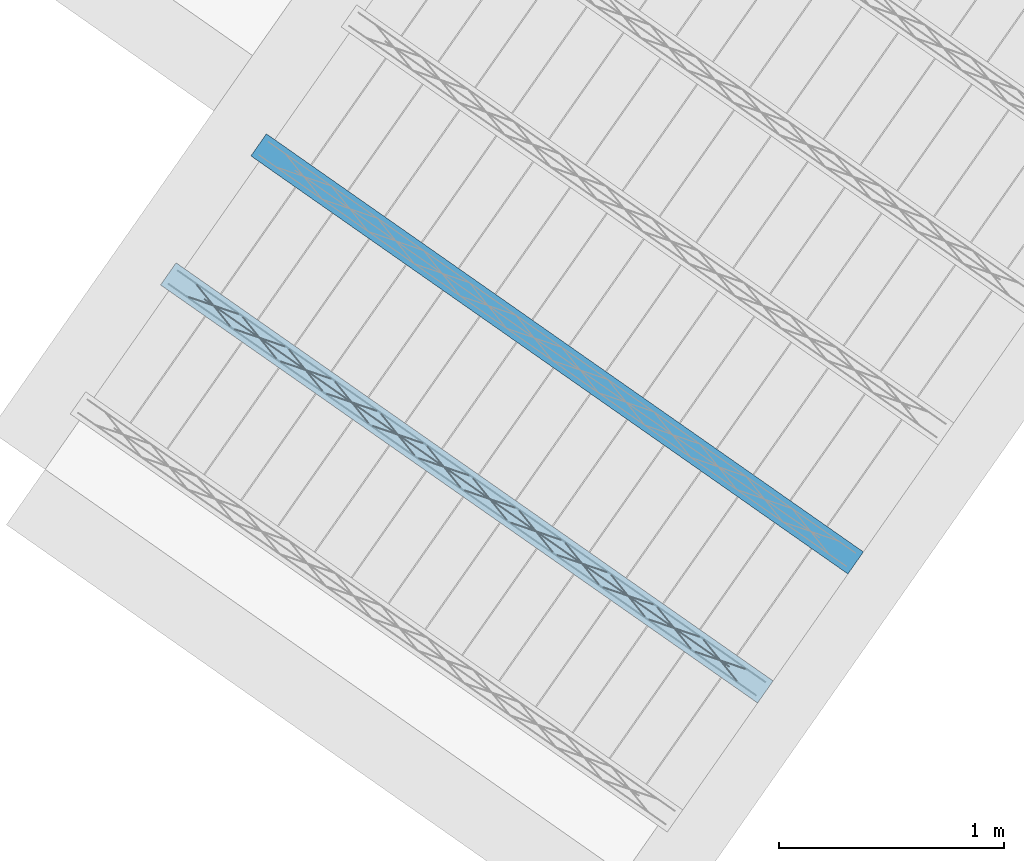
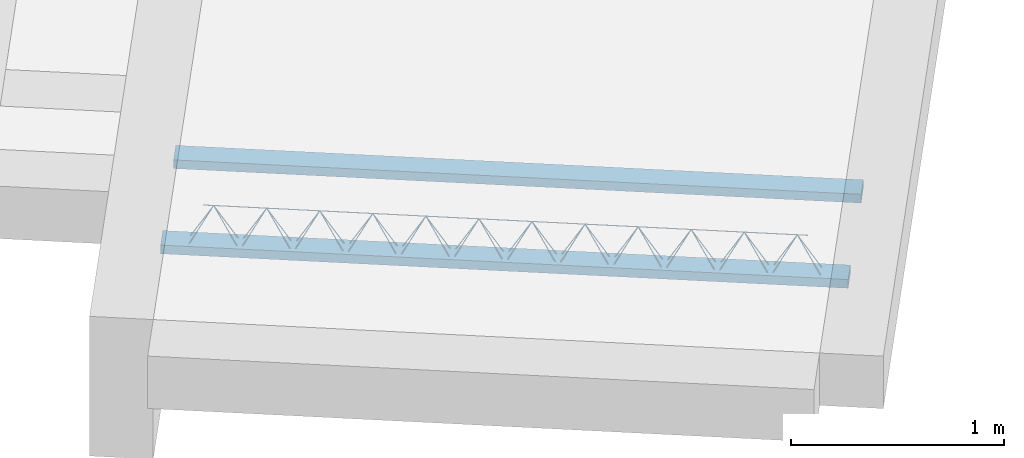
# One storey, part 4 of 46: 2 beams.
"""IFC2X3 building model written with IfcOpenShell, lengths in metres."""

from ifc_helpers import new_model, entity, si_unit, converted_unit, derived_unit, direction, frame, frame_2d, origin, origin_2d_with_axis, place, context, subcontext, project, spatial, rectangle, circle, extrude, material, type_object, element, save


model = new_model("IFC2X3")

# Units and contexts
model_context = context("Model", 3, precision=1e-05, world=origin(), true_north=direction((6.123031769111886e-17, 1.0)))
body_context = subcontext(model_context, "Body", "Model", "MODEL_VIEW")
ifc_project = project(units=[si_unit("LENGTHUNIT", "METRE"), si_unit("AREAUNIT", "SQUARE_METRE"), si_unit("VOLUMEUNIT", "CUBIC_METRE"), converted_unit("PLANEANGLEUNIT", "DEGREE", entity("IfcPlaneAngleMeasure", 0.017453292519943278), si_unit("PLANEANGLEUNIT", "RADIAN"), dimensions=[0, 0, 0, 0, 0, 0, 0]), si_unit("MASSUNIT", "GRAM", prefix="KILO"), derived_unit("MASSDENSITYUNIT", [(si_unit("MASSUNIT", "GRAM", prefix="KILO"), 1), (si_unit("LENGTHUNIT", "METRE"), -3)]), derived_unit("IONCONCENTRATIONUNIT", [(si_unit("MASSUNIT", "GRAM", prefix="KILO"), 1), (si_unit("LENGTHUNIT", "METRE"), -3)]), derived_unit("MOMENTOFINERTIAUNIT", [(si_unit("LENGTHUNIT", "METRE"), 4)]), si_unit("TIMEUNIT", "SECOND"), si_unit("FREQUENCYUNIT", "HERTZ"), si_unit("THERMODYNAMICTEMPERATUREUNIT", "DEGREE_CELSIUS"), derived_unit("THERMALTRANSMITTANCEUNIT", [(si_unit("MASSUNIT", "GRAM", prefix="KILO"), 1), (si_unit("THERMODYNAMICTEMPERATUREUNIT", "KELVIN"), -1), (si_unit("TIMEUNIT", "SECOND"), -3)]), derived_unit("THERMALCONDUCTANCEUNIT", [(si_unit("MASSUNIT", "GRAM", prefix="KILO"), 1), (si_unit("THERMODYNAMICTEMPERATUREUNIT", "KELVIN"), -1), (si_unit("TIMEUNIT", "SECOND"), -3), (si_unit("LENGTHUNIT", "METRE"), 1)]), derived_unit("VOLUMETRICFLOWRATEUNIT", [(si_unit("LENGTHUNIT", "METRE", prefix="DECI"), 3), (si_unit("TIMEUNIT", "SECOND"), -1)]), derived_unit("MASSFLOWRATEUNIT", [(si_unit("MASSUNIT", "GRAM", prefix="KILO"), 1), (si_unit("TIMEUNIT", "SECOND"), -1)]), derived_unit("ROTATIONALFREQUENCYUNIT", [(si_unit("TIMEUNIT", "SECOND"), -1)]), si_unit("ELECTRICCURRENTUNIT", "AMPERE"), si_unit("ELECTRICVOLTAGEUNIT", "VOLT"), si_unit("POWERUNIT", "WATT"), si_unit("FORCEUNIT", "NEWTON", prefix="KILO"), si_unit("ILLUMINANCEUNIT", "LUX"), si_unit("LUMINOUSFLUXUNIT", "LUMEN"), si_unit("LUMINOUSINTENSITYUNIT", "CANDELA"), si_unit("ENERGYUNIT", "JOULE"), derived_unit("USERDEFINED", [(si_unit("MASSUNIT", "GRAM", prefix="KILO"), -1), (si_unit("LENGTHUNIT", "METRE"), -2), (si_unit("TIMEUNIT", "SECOND"), 3), (si_unit("LUMINOUSFLUXUNIT", "LUMEN"), 1)]), derived_unit("USERDEFINED", [(si_unit("MASSUNIT", "GRAM", prefix="KILO"), 1), (si_unit("TIMEUNIT", "SECOND"), -3), (si_unit("LENGTHUNIT", "METRE"), 3), (si_unit("ELECTRICCURRENTUNIT", "AMPERE"), -2)]), derived_unit("SOUNDPOWERUNIT", [(si_unit("MASSUNIT", "GRAM", prefix="KILO"), 1), (si_unit("TIMEUNIT", "SECOND"), -3), (si_unit("LENGTHUNIT", "METRE"), 2)]), derived_unit("SOUNDPRESSUREUNIT", [(si_unit("MASSUNIT", "GRAM", prefix="KILO"), 1), (si_unit("LENGTHUNIT", "METRE"), -1), (si_unit("TIMEUNIT", "SECOND"), -2)]), derived_unit("LINEARVELOCITYUNIT", [(si_unit("LENGTHUNIT", "METRE"), 1), (si_unit("TIMEUNIT", "SECOND"), -1)]), si_unit("PRESSUREUNIT", "PASCAL"), derived_unit("USERDEFINED", [(si_unit("MASSUNIT", "GRAM", prefix="KILO"), 1), (si_unit("LENGTHUNIT", "METRE"), -2), (si_unit("TIMEUNIT", "SECOND"), -2)]), derived_unit("LINEARFORCEUNIT", [(si_unit("MASSUNIT", "GRAM", prefix="KILO"), 1), (si_unit("TIMEUNIT", "SECOND"), -2)]), derived_unit("PLANARFORCEUNIT", [(si_unit("MASSUNIT", "GRAM", prefix="KILO"), 1), (si_unit("LENGTHUNIT", "METRE"), -1), (si_unit("TIMEUNIT", "SECOND"), -2)]), derived_unit("SPECIFICHEATCAPACITYUNIT", [(si_unit("THERMODYNAMICTEMPERATUREUNIT", "KELVIN"), -1), (si_unit("LENGTHUNIT", "METRE"), 2), (si_unit("TIMEUNIT", "SECOND"), -2)]), derived_unit("HEATFLUXDENSITYUNIT", [(si_unit("MASSUNIT", "GRAM", prefix="KILO"), 1), (si_unit("TIMEUNIT", "SECOND"), -3)]), derived_unit("HEATINGVALUEUNIT", [(si_unit("LENGTHUNIT", "METRE"), 2), (si_unit("TIMEUNIT", "SECOND"), -2)]), derived_unit("VAPORPERMEABILITYUNIT", [(si_unit("LENGTHUNIT", "METRE"), -1), (si_unit("TIMEUNIT", "SECOND"), 1)]), derived_unit("DYNAMICVISCOSITYUNIT", [(si_unit("MASSUNIT", "GRAM", prefix="KILO"), 1), (si_unit("TIMEUNIT", "SECOND"), -1), (si_unit("LENGTHUNIT", "METRE"), -1)]), derived_unit("THERMALEXPANSIONCOEFFICIENTUNIT", [(si_unit("THERMODYNAMICTEMPERATUREUNIT", "KELVIN"), -1)]), derived_unit("MODULUSOFELASTICITYUNIT", [(si_unit("MASSUNIT", "GRAM", prefix="KILO"), 1), (si_unit("LENGTHUNIT", "METRE"), -1), (si_unit("TIMEUNIT", "SECOND"), -2)]), derived_unit("ISOTHERMALMOISTURECAPACITYUNIT", [(si_unit("MASSUNIT", "GRAM", prefix="KILO"), -1), (si_unit("LENGTHUNIT", "METRE"), 3)]), derived_unit("MOISTUREDIFFUSIVITYUNIT", [(si_unit("TIMEUNIT", "SECOND"), -1), (si_unit("LENGTHUNIT", "METRE"), 2)]), derived_unit("MASSPERLENGTHUNIT", [(si_unit("MASSUNIT", "GRAM", prefix="KILO"), 1), (si_unit("LENGTHUNIT", "METRE"), -1)]), derived_unit("THERMALRESISTANCEUNIT", [(si_unit("MASSUNIT", "GRAM", prefix="KILO"), -1), (si_unit("TIMEUNIT", "SECOND"), 3), (si_unit("THERMODYNAMICTEMPERATUREUNIT", "KELVIN"), 1)]), derived_unit("ACCELERATIONUNIT", [(si_unit("LENGTHUNIT", "METRE"), 1), (si_unit("TIMEUNIT", "SECOND"), -2)]), derived_unit("ANGULARVELOCITYUNIT", [(si_unit("TIMEUNIT", "SECOND"), -1), (si_unit("PLANEANGLEUNIT", "RADIAN"), 1)]), derived_unit("LINEARSTIFFNESSUNIT", [(si_unit("MASSUNIT", "GRAM", prefix="KILO"), 1), (si_unit("TIMEUNIT", "SECOND"), -2)]), derived_unit("WARPINGCONSTANTUNIT", [(si_unit("LENGTHUNIT", "METRE"), 6)]), derived_unit("LINEARMOMENTUNIT", [(si_unit("MASSUNIT", "GRAM", prefix="KILO"), 1), (si_unit("LENGTHUNIT", "METRE"), 1), (si_unit("TIMEUNIT", "SECOND"), -2)]), derived_unit("TORQUEUNIT", [(si_unit("MASSUNIT", "GRAM", prefix="KILO"), 1), (si_unit("LENGTHUNIT", "METRE"), 2), (si_unit("TIMEUNIT", "SECOND"), -2)])], contexts=[model_context])

# Site, building, storey
site_placement = place(None, origin())
site = spatial("IfcSite", under=ifc_project, at=site_placement, Name="Default", CompositionType="ELEMENT")
building_placement = place(site_placement, origin())
building = spatial("IfcBuilding", under=site, at=building_placement, CompositionType="ELEMENT")
storey_placement = place(building_placement, frame((0.0, 0.0, 99.52000000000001)))
storey = spatial("IfcBuildingStorey", under=building, at=storey_placement, Name="F1", CompositionType="ELEMENT", Elevation=99.52000000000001)

# Beams
beam_type = type_object("IfcBeamType", Name="Vigueta 2 (Paño 4) (Mf = 14.17)", PredefinedType="JOIST")
beam_1_placement = place(storey_placement, origin())
element("IfcBeam", 1, at=beam_1_placement, inside=storey, type_object=beam_type, Name="Vigueta 2 (Paño 4) (Mf = 14.17)", ObjectType="Mf = 14.17", context=body_context, shape_type="SweptSolid", body=[
    extrude(rectangle(XDim=3.240000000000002, YDim=0.11999999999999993, at=frame_2d((-6.661338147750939e-16, -4.718447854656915e-16), x_axis=(1.0, 0.0))), frame((6.183949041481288, -4.146587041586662, 0.2000000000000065), z_axis=(0.0, 0.0, 1.0), x_axis=(0.8191520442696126, -0.5735764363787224, 0.0)), (0.0, 0.0, 1.0), 0.04999999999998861),
    extrude(circle(Radius=0.0025, at=origin_2d_with_axis()), frame((4.855933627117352, -3.2606485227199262, 0.22500000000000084), z_axis=(0.8191520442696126, -0.5735764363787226, 0.0), x_axis=(-0.5735764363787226, -0.8191520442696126, 0.0)), (0.0, 0.0, 1.0), 3.191999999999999),
    extrude(circle(Radius=0.0025, at=origin_2d_with_axis()), frame((5.01665737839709, -3.3292406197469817, 0.4500000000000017), z_axis=(0.8191520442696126, -0.5735764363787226, 0.0), x_axis=(-0.5735764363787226, -0.8191520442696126, 0.0)), (0.0, 0.0, 1.0), 2.849999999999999),
    extrude(circle(Radius=0.0025, at=origin_2d_with_axis()), frame((7.3920283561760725, -5.036441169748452, 0.22500000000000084), z_axis=(-0.3145304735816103, 0.389334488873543, 0.8657304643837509), x_axis=(-0.7778747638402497, -0.6284193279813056, 0.0)), (0.0, 0.0, 1.0), 0.2598961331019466),
    extrude(circle(Radius=0.0025, at=origin_2d_with_axis()), frame((7.1872403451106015, -4.893047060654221, 0.22499999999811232), z_axis=(0.47343050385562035, -0.1624017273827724, 0.8657304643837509), x_axis=(-0.3244721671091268, -0.9458952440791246, 0.0)), (0.0, 0.0, 1.0), 0.25989613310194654),
    extrude(circle(Radius=0.0025, at=origin_2d_with_axis()), frame((7.18724034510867, -4.89304706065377, 0.22500000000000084), z_axis=(-0.3145304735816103, 0.389334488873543, 0.8657304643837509), x_axis=(-0.7778747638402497, -0.6284193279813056, 0.0)), (0.0, 0.0, 1.0), 0.2598961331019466),
    extrude(circle(Radius=0.0025, at=origin_2d_with_axis()), frame((6.982452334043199, -4.749652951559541, 0.22499999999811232), z_axis=(0.47343050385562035, -0.1624017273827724, 0.8657304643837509), x_axis=(-0.3244721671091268, -0.9458952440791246, 0.0)), (0.0, 0.0, 1.0), 0.25989613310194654),
    extrude(circle(Radius=0.0025, at=origin_2d_with_axis()), frame((6.982452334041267, -4.7496529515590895, 0.22500000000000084), z_axis=(-0.3145304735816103, 0.389334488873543, 0.8657304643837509), x_axis=(-0.7778747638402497, -0.6284193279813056, 0.0)), (0.0, 0.0, 1.0), 0.2598961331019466),
    extrude(circle(Radius=0.0025, at=origin_2d_with_axis()), frame((6.777664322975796, -4.606258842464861, 0.22499999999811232), z_axis=(0.47343050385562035, -0.1624017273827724, 0.8657304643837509), x_axis=(-0.3244721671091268, -0.9458952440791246, 0.0)), (0.0, 0.0, 1.0), 0.25989613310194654),
    extrude(circle(Radius=0.0025, at=origin_2d_with_axis()), frame((6.7776643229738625, -4.606258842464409, 0.22500000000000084), z_axis=(-0.3145304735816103, 0.389334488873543, 0.8657304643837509), x_axis=(-0.7778747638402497, -0.6284193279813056, 0.0)), (0.0, 0.0, 1.0), 0.2598961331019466),
    extrude(circle(Radius=0.0025, at=origin_2d_with_axis()), frame((6.572876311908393, -4.462864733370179, 0.22499999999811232), z_axis=(0.47343050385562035, -0.1624017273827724, 0.8657304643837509), x_axis=(-0.3244721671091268, -0.9458952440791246, 0.0)), (0.0, 0.0, 1.0), 0.25989613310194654),
    extrude(circle(Radius=0.0025, at=origin_2d_with_axis()), frame((6.57287631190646, -4.462864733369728, 0.22500000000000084), z_axis=(-0.3145304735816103, 0.389334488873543, 0.8657304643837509), x_axis=(-0.7778747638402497, -0.6284193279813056, 0.0)), (0.0, 0.0, 1.0), 0.2598961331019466),
    extrude(circle(Radius=0.0025, at=origin_2d_with_axis()), frame((6.36808830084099, -4.3194706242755, 0.22499999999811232), z_axis=(0.47343050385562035, -0.1624017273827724, 0.8657304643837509), x_axis=(-0.3244721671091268, -0.9458952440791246, 0.0)), (0.0, 0.0, 1.0), 0.25989613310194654),
    extrude(circle(Radius=0.0025, at=origin_2d_with_axis()), frame((6.368088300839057, -4.319470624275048, 0.22500000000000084), z_axis=(-0.3145304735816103, 0.389334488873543, 0.8657304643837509), x_axis=(-0.7778747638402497, -0.6284193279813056, 0.0)), (0.0, 0.0, 1.0), 0.2598961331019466),
    extrude(circle(Radius=0.0025, at=origin_2d_with_axis()), frame((6.163300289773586, -4.176076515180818, 0.22499999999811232), z_axis=(0.47343050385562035, -0.1624017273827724, 0.8657304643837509), x_axis=(-0.3244721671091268, -0.9458952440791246, 0.0)), (0.0, 0.0, 1.0), 0.25989613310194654),
    extrude(circle(Radius=0.0025, at=origin_2d_with_axis()), frame((6.163300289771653, -4.176076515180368, 0.22500000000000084), z_axis=(-0.3145304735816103, 0.389334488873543, 0.8657304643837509), x_axis=(-0.7778747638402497, -0.6284193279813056, 0.0)), (0.0, 0.0, 1.0), 0.2598961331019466),
    extrude(circle(Radius=0.0025, at=origin_2d_with_axis()), frame((5.958512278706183, -4.0326824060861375, 0.22499999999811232), z_axis=(0.47343050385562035, -0.1624017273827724, 0.8657304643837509), x_axis=(-0.3244721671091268, -0.9458952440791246, 0.0)), (0.0, 0.0, 1.0), 0.25989613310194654),
    extrude(circle(Radius=0.0025, at=origin_2d_with_axis()), frame((5.958512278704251, -4.032682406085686, 0.22500000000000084), z_axis=(-0.3145304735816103, 0.389334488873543, 0.8657304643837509), x_axis=(-0.7778747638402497, -0.6284193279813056, 0.0)), (0.0, 0.0, 1.0), 0.2598961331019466),
    extrude(circle(Radius=0.0025, at=origin_2d_with_axis()), frame((5.7537242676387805, -3.8892882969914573, 0.22499999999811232), z_axis=(0.47343050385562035, -0.1624017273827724, 0.8657304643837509), x_axis=(-0.3244721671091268, -0.9458952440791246, 0.0)), (0.0, 0.0, 1.0), 0.25989613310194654),
    extrude(circle(Radius=0.0025, at=origin_2d_with_axis()), frame((5.753724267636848, -3.8892882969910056, 0.22500000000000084), z_axis=(-0.3145304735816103, 0.389334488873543, 0.8657304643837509), x_axis=(-0.7778747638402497, -0.6284193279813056, 0.0)), (0.0, 0.0, 1.0), 0.2598961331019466),
    extrude(circle(Radius=0.0025, at=origin_2d_with_axis()), frame((5.548936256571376, -3.7458941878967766, 0.22499999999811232), z_axis=(0.47343050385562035, -0.1624017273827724, 0.8657304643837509), x_axis=(-0.3244721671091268, -0.9458952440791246, 0.0)), (0.0, 0.0, 1.0), 0.25989613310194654),
    extrude(circle(Radius=0.0025, at=origin_2d_with_axis()), frame((5.548936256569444, -3.7458941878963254, 0.22500000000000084), z_axis=(-0.3145304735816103, 0.389334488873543, 0.8657304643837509), x_axis=(-0.7778747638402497, -0.6284193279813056, 0.0)), (0.0, 0.0, 1.0), 0.2598961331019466),
    extrude(circle(Radius=0.0025, at=origin_2d_with_axis()), frame((5.344148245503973, -3.6025000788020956, 0.22499999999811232), z_axis=(0.47343050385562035, -0.1624017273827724, 0.8657304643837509), x_axis=(-0.3244721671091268, -0.9458952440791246, 0.0)), (0.0, 0.0, 1.0), 0.25989613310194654),
    extrude(circle(Radius=0.0025, at=origin_2d_with_axis()), frame((5.3441482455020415, -3.602500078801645, 0.22500000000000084), z_axis=(-0.3145304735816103, 0.389334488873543, 0.8657304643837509), x_axis=(-0.7778747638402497, -0.6284193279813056, 0.0)), (0.0, 0.0, 1.0), 0.2598961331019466),
    extrude(circle(Radius=0.0025, at=origin_2d_with_axis()), frame((5.1393602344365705, -3.4591059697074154, 0.22499999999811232), z_axis=(0.47343050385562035, -0.1624017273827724, 0.8657304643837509), x_axis=(-0.3244721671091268, -0.9458952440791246, 0.0)), (0.0, 0.0, 1.0), 0.25989613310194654),
    extrude(circle(Radius=0.0025, at=origin_2d_with_axis()), frame((5.139360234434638, -3.4591059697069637, 0.22500000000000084), z_axis=(-0.3145304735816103, 0.389334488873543, 0.8657304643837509), x_axis=(-0.7778747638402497, -0.6284193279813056, 0.0)), (0.0, 0.0, 1.0), 0.2598961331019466),
    extrude(circle(Radius=0.0025, at=origin_2d_with_axis()), frame((4.934572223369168, -3.315711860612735, 0.22499999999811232), z_axis=(0.47343050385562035, -0.1624017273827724, 0.8657304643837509), x_axis=(-0.3244721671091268, -0.9458952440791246, 0.0)), (0.0, 0.0, 1.0), 0.25989613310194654),
    extrude(circle(Radius=0.0025, at=origin_2d_with_axis()), frame((4.897231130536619, -3.201669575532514, 0.22500000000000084), z_axis=(0.8191520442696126, -0.5735764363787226, 0.0), x_axis=(-0.5735764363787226, -0.8191520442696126, 0.0)), (0.0, 0.0, 1.0), 3.191999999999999),
    extrude(circle(Radius=0.0025, at=origin_2d_with_axis()), frame((7.433325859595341, -4.97746222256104, 0.22500000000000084), z_axis=(-0.47343050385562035, 0.1624017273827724, 0.8657304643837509), x_axis=(-0.3244721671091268, -0.9458952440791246, 0.0)), (0.0, 0.0, 1.0), 0.25989613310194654),
    extrude(circle(Radius=0.0025, at=origin_2d_with_axis()), frame((7.228537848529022, -4.83406811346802, 0.22499999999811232), z_axis=(0.3145304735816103, -0.389334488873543, 0.8657304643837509), x_axis=(-0.7778747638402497, -0.6284193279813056, 0.0)), (0.0, 0.0, 1.0), 0.2598961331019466),
    extrude(circle(Radius=0.0025, at=origin_2d_with_axis()), frame((7.228537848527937, -4.834068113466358, 0.22500000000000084), z_axis=(-0.47343050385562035, 0.1624017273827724, 0.8657304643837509), x_axis=(-0.3244721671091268, -0.9458952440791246, 0.0)), (0.0, 0.0, 1.0), 0.25989613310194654),
    extrude(circle(Radius=0.0025, at=origin_2d_with_axis()), frame((7.02374983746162, -4.690674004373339, 0.22499999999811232), z_axis=(0.3145304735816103, -0.389334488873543, 0.8657304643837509), x_axis=(-0.7778747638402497, -0.6284193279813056, 0.0)), (0.0, 0.0, 1.0), 0.2598961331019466),
    extrude(circle(Radius=0.0025, at=origin_2d_with_axis()), frame((7.023749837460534, -4.690674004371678, 0.22500000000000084), z_axis=(-0.47343050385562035, 0.1624017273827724, 0.8657304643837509), x_axis=(-0.3244721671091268, -0.9458952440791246, 0.0)), (0.0, 0.0, 1.0), 0.25989613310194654),
    extrude(circle(Radius=0.0025, at=origin_2d_with_axis()), frame((6.818961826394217, -4.547279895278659, 0.22499999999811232), z_axis=(0.3145304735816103, -0.389334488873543, 0.8657304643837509), x_axis=(-0.7778747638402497, -0.6284193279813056, 0.0)), (0.0, 0.0, 1.0), 0.2598961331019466),
    extrude(circle(Radius=0.0025, at=origin_2d_with_axis()), frame((6.818961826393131, -4.547279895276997, 0.22500000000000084), z_axis=(-0.47343050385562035, 0.1624017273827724, 0.8657304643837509), x_axis=(-0.3244721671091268, -0.9458952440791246, 0.0)), (0.0, 0.0, 1.0), 0.25989613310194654),
    extrude(circle(Radius=0.0025, at=origin_2d_with_axis()), frame((6.614173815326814, -4.403885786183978, 0.22499999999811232), z_axis=(0.3145304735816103, -0.389334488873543, 0.8657304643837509), x_axis=(-0.7778747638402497, -0.6284193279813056, 0.0)), (0.0, 0.0, 1.0), 0.2598961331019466),
    extrude(circle(Radius=0.0025, at=origin_2d_with_axis()), frame((6.614173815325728, -4.403885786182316, 0.22500000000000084), z_axis=(-0.47343050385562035, 0.1624017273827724, 0.8657304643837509), x_axis=(-0.3244721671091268, -0.9458952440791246, 0.0)), (0.0, 0.0, 1.0), 0.25989613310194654),
    extrude(circle(Radius=0.0025, at=origin_2d_with_axis()), frame((6.4093858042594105, -4.2604916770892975, 0.22499999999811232), z_axis=(0.3145304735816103, -0.389334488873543, 0.8657304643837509), x_axis=(-0.7778747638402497, -0.6284193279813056, 0.0)), (0.0, 0.0, 1.0), 0.2598961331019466),
    extrude(circle(Radius=0.0025, at=origin_2d_with_axis()), frame((6.409385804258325, -4.260491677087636, 0.22500000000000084), z_axis=(-0.47343050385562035, 0.1624017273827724, 0.8657304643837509), x_axis=(-0.3244721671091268, -0.9458952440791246, 0.0)), (0.0, 0.0, 1.0), 0.25989613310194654),
    extrude(circle(Radius=0.0025, at=origin_2d_with_axis()), frame((6.204597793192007, -4.117097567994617, 0.22499999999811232), z_axis=(0.3145304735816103, -0.389334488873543, 0.8657304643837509), x_axis=(-0.7778747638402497, -0.6284193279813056, 0.0)), (0.0, 0.0, 1.0), 0.2598961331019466),
    extrude(circle(Radius=0.0025, at=origin_2d_with_axis()), frame((6.204597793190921, -4.117097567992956, 0.22500000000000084), z_axis=(-0.47343050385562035, 0.1624017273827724, 0.8657304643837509), x_axis=(-0.3244721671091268, -0.9458952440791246, 0.0)), (0.0, 0.0, 1.0), 0.25989613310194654),
    extrude(circle(Radius=0.0025, at=origin_2d_with_axis()), frame((5.999809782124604, -3.973703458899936, 0.22499999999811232), z_axis=(0.3145304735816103, -0.389334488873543, 0.8657304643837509), x_axis=(-0.7778747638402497, -0.6284193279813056, 0.0)), (0.0, 0.0, 1.0), 0.2598961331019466),
    extrude(circle(Radius=0.0025, at=origin_2d_with_axis()), frame((5.999809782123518, -3.973703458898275, 0.22500000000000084), z_axis=(-0.47343050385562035, 0.1624017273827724, 0.8657304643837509), x_axis=(-0.3244721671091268, -0.9458952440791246, 0.0)), (0.0, 0.0, 1.0), 0.25989613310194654),
    extrude(circle(Radius=0.0025, at=origin_2d_with_axis()), frame((5.795021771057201, -3.8303093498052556, 0.22499999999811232), z_axis=(0.3145304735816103, -0.389334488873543, 0.8657304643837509), x_axis=(-0.7778747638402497, -0.6284193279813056, 0.0)), (0.0, 0.0, 1.0), 0.2598961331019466),
    extrude(circle(Radius=0.0025, at=origin_2d_with_axis()), frame((5.795021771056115, -3.830309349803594, 0.22500000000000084), z_axis=(-0.47343050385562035, 0.1624017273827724, 0.8657304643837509), x_axis=(-0.3244721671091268, -0.9458952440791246, 0.0)), (0.0, 0.0, 1.0), 0.25989613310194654),
    extrude(circle(Radius=0.0025, at=origin_2d_with_axis()), frame((5.590233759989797, -3.6869152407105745, 0.22499999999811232), z_axis=(0.3145304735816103, -0.389334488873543, 0.8657304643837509), x_axis=(-0.7778747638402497, -0.6284193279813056, 0.0)), (0.0, 0.0, 1.0), 0.2598961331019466),
    extrude(circle(Radius=0.0025, at=origin_2d_with_axis()), frame((5.590233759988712, -3.6869152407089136, 0.22500000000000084), z_axis=(-0.47343050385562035, 0.1624017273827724, 0.8657304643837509), x_axis=(-0.3244721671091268, -0.9458952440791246, 0.0)), (0.0, 0.0, 1.0), 0.25989613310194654),
    extrude(circle(Radius=0.0025, at=origin_2d_with_axis()), frame((5.385445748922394, -3.543521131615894, 0.22499999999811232), z_axis=(0.3145304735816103, -0.389334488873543, 0.8657304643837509), x_axis=(-0.7778747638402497, -0.6284193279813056, 0.0)), (0.0, 0.0, 1.0), 0.2598961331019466),
    extrude(circle(Radius=0.0025, at=origin_2d_with_axis()), frame((5.38544574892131, -3.5435211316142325, 0.22500000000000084), z_axis=(-0.47343050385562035, 0.1624017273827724, 0.8657304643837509), x_axis=(-0.3244721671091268, -0.9458952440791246, 0.0)), (0.0, 0.0, 1.0), 0.25989613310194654),
    extrude(circle(Radius=0.0025, at=origin_2d_with_axis()), frame((5.180657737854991, -3.4001270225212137, 0.22499999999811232), z_axis=(0.3145304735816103, -0.389334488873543, 0.8657304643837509), x_axis=(-0.7778747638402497, -0.6284193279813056, 0.0)), (0.0, 0.0, 1.0), 0.2598961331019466),
    extrude(circle(Radius=0.0025, at=origin_2d_with_axis()), frame((5.180657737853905, -3.400127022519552, 0.22500000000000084), z_axis=(-0.47343050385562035, 0.1624017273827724, 0.8657304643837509), x_axis=(-0.3244721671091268, -0.9458952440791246, 0.0)), (0.0, 0.0, 1.0), 0.25989613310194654),
    extrude(circle(Radius=0.0025, at=origin_2d_with_axis()), frame((4.975869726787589, -3.256732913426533, 0.22499999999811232), z_axis=(0.3145304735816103, -0.389334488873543, 0.8657304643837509), x_axis=(-0.7778747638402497, -0.6284193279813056, 0.0)), (0.0, 0.0, 1.0), 0.2598961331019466),
])
ifc_material = material(Name="Hormigón armado")
beam_2_placement = place(storey_placement, origin())
element("IfcBeam", 2, at=beam_2_placement, inside=storey, material=ifc_material, Name="238283", context=body_context, shape_type="SweptSolid", body=[
    extrude(rectangle(XDim=0.04999999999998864, YDim=0.12000000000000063, at=frame_2d((0.0, 3.0878077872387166e-16), x_axis=(1.0, 0.0))), frame((5.25842623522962, -2.6439867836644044, 0.22500000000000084), z_axis=(0.8191520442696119, -0.5735764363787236, 0.0), x_axis=(0.0, 0.0, -1.0)), (0.0, 0.0, 1.0), 3.2399999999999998),
])

save(model, "model.ifc")
